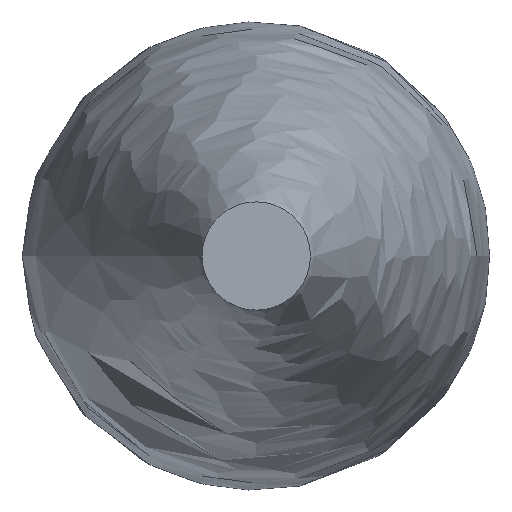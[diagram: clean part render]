
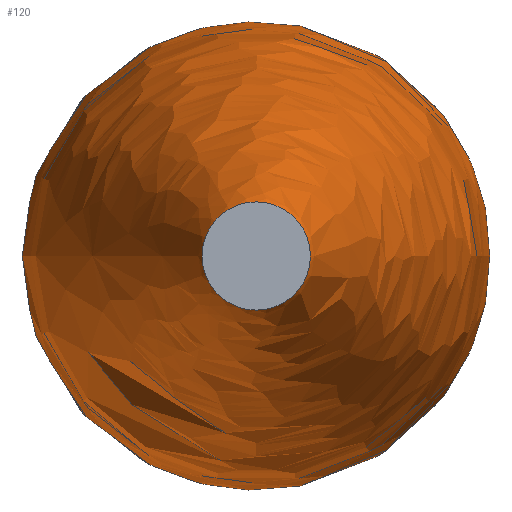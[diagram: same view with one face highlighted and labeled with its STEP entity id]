
A CAD part, left-side view. The second image highlights one B-rep face of the part: STEP entity #120.
In plain terms, the highlighted face is a revolution surface.
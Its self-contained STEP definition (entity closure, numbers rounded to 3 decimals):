
#68=CARTESIAN_POINT('',(356.,0.,0.0));
#69=CARTESIAN_POINT('',(356.976,5.188,0.0));
#70=CARTESIAN_POINT('',(353.008,7.918,0.0));
#71=CARTESIAN_POINT('',(360.454,39.587,0.0));
#72=CARTESIAN_POINT('',(314.488,47.872,0.0));
#73=CARTESIAN_POINT('',(292.636,70.835,0.0));
#74=CARTESIAN_POINT('',(259.694,60.045,0.0));
#75=CARTESIAN_POINT('',(230.114,64.497,0.0));
#76=CARTESIAN_POINT('',(199.79,56.362,0.0));
#77=CARTESIAN_POINT('',(169.828,51.418,0.0));
#78=CARTESIAN_POINT('',(139.987,44.245,0.0));
#79=CARTESIAN_POINT('',(101.22,33.379,0.0));
#80=CARTESIAN_POINT('',(72.899,26.59,0.0));
#81=CARTESIAN_POINT('',(43.321,17.287,0.0));
#82=CARTESIAN_POINT('',(40.,15.0,0.0));
#83=B_SPLINE_CURVE_WITH_KNOTS('',4,(#68,#69,#70,#71,#72,#73,#74,#75,#76,#77,#78,#79,#80,#81,#82),.UNSPECIFIED.,.F.,.U.,(5,1,1,1,1,1,1,1,1,1,1,5),(0.0,0.117,0.186,0.265,0.347,0.428,0.508,0.588,0.669,0.749,0.83,1.0),.UNSPECIFIED.);
#84=CARTESIAN_POINT('',(40.0,0.,0.0));
#85=DIRECTION('',(-1.0,0.,0.0));
#86=AXIS1_PLACEMENT('',#84,#85);
#87=SURFACE_OF_REVOLUTION('',#83,#86);
#88=CARTESIAN_POINT('',(40.0,15.0,0.0));
#89=VERTEX_POINT('',#88);
#90=CARTESIAN_POINT('',(356.0,0.,0.0));
#91=VERTEX_POINT('',#90);
#92=CARTESIAN_POINT('',(40.,15.0,0.0));
#93=CARTESIAN_POINT('',(43.321,17.287,0.0));
#94=CARTESIAN_POINT('',(72.899,26.59,0.0));
#95=CARTESIAN_POINT('',(101.22,33.379,0.0));
#96=CARTESIAN_POINT('',(139.987,44.245,0.0));
#97=CARTESIAN_POINT('',(169.828,51.418,0.0));
#98=CARTESIAN_POINT('',(199.79,56.362,0.0));
#99=CARTESIAN_POINT('',(230.114,64.497,0.0));
#100=CARTESIAN_POINT('',(259.694,60.045,0.0));
#101=CARTESIAN_POINT('',(292.636,70.835,0.0));
#102=CARTESIAN_POINT('',(314.488,47.872,0.0));
#103=CARTESIAN_POINT('',(360.454,39.587,0.0));
#104=CARTESIAN_POINT('',(353.008,7.918,0.0));
#105=CARTESIAN_POINT('',(356.976,5.188,0.0));
#106=CARTESIAN_POINT('',(356.,0.,0.0));
#107=B_SPLINE_CURVE_WITH_KNOTS('',4,(#92,#93,#94,#95,#96,#97,#98,#99,#100,#101,#102,#103,#104,#105,#106),.UNSPECIFIED.,.F.,.U.,(5,1,1,1,1,1,1,1,1,1,1,5),(0.0,0.17,0.251,0.331,0.412,0.492,0.572,0.653,0.735,0.814,0.883,1.0),.UNSPECIFIED.);
#108=EDGE_CURVE('',#89,#91,#107,.T.);
#109=ORIENTED_EDGE('',*,*,#108,.T.);
#110=ORIENTED_EDGE('',*,*,#108,.F.);
#111=CARTESIAN_POINT('',(40.0,0.,0.0));
#112=DIRECTION('',(1.0,0.0,0.0));
#113=DIRECTION('',(0.0,1.0,0.0));
#114=AXIS2_PLACEMENT_3D('',#111,#112,#113);
#115=CIRCLE('',#114,15.0);
#116=EDGE_CURVE('',#89,#89,#115,.T.);
#117=ORIENTED_EDGE('',*,*,#116,.T.);
#118=EDGE_LOOP('',(#109,#110,#117));
#119=FACE_OUTER_BOUND('',#118,.T.);
#120=ADVANCED_FACE('',(#119),#87,.T.);
